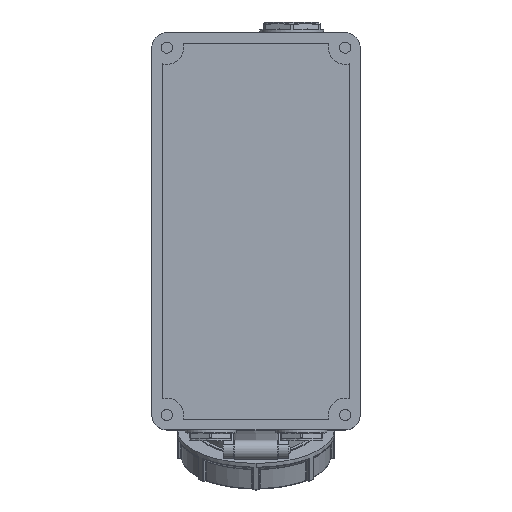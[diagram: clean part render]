
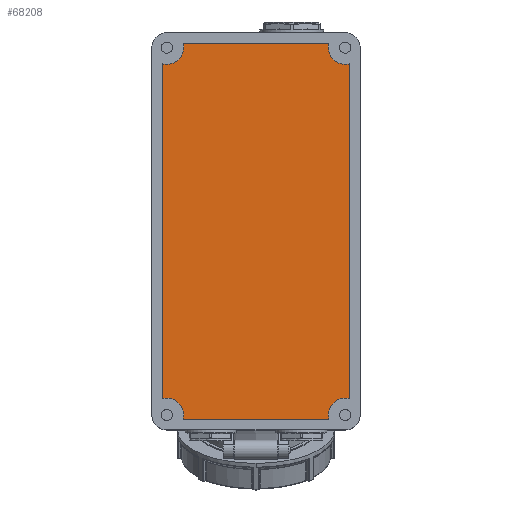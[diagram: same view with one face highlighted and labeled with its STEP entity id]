
A CAD part, top view. The second image highlights one B-rep face of the part: STEP entity #68208.
In plain terms, the highlighted planar face has unit normal (0, 0, 1).
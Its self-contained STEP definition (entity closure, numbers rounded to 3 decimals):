
#21667=CARTESIAN_POINT('',(50.5,104.,-1.));
#21668=DIRECTION('',(0.,0.,1.));
#21669=DIRECTION('',(-0.965,0.263,0.));
#21670=AXIS2_PLACEMENT_3D('',#21667,#21668,#21669);
#21675=DIRECTION('',(0.,-1.,0.));
#21676=VECTOR('',#21675,189.67);
#21677=CARTESIAN_POINT('',(53.,94.835,-1.));
#21678=LINE('1846',#21677,#21676);
#21682=CARTESIAN_POINT('',(50.5,-104.,-1.));
#21683=DIRECTION('',(0.,0.,1.));
#21684=DIRECTION('',(0.263,0.965,0.));
#21685=AXIS2_PLACEMENT_3D('',#21682,#21683,#21684);
#21690=DIRECTION('',(-1.,0.,0.));
#21691=VECTOR('',#21690,82.67);
#21692=CARTESIAN_POINT('',(41.335,-106.5,-1.));
#21693=LINE('1848',#21692,#21691);
#21697=CARTESIAN_POINT('',(-50.5,-104.,-1.));
#21698=DIRECTION('',(0.,0.,1.));
#21699=DIRECTION('',(0.965,-0.263,0.));
#21700=AXIS2_PLACEMENT_3D('',#21697,#21698,#21699);
#21705=DIRECTION('',(0.,1.,0.));
#21706=VECTOR('',#21705,189.67);
#21707=CARTESIAN_POINT('',(-53.,-94.835,-1.));
#21708=LINE('1850',#21707,#21706);
#21712=CARTESIAN_POINT('',(-50.5,104.,-1.));
#21713=DIRECTION('',(0.,0.,1.));
#21714=DIRECTION('',(-0.263,-0.965,0.));
#21715=AXIS2_PLACEMENT_3D('',#21712,#21713,#21714);
#21720=DIRECTION('',(1.,0.,0.));
#21721=VECTOR('',#21720,82.67);
#21722=CARTESIAN_POINT('',(-41.335,106.5,-1.));
#21723=LINE('1852',#21722,#21721);
#35536=CARTESIAN_POINT('',(41.335,106.5,-1.));
#35537=CARTESIAN_POINT('',(53.,94.835,-1.));
#35538=VERTEX_POINT('',#35536);
#35539=VERTEX_POINT('',#35537);
#35540=CARTESIAN_POINT('',(53.,-94.835,-1.));
#35541=VERTEX_POINT('',#35540);
#35542=CARTESIAN_POINT('',(41.335,-106.5,-1.));
#35543=VERTEX_POINT('',#35542);
#35544=CARTESIAN_POINT('',(-41.335,-106.5,-1.));
#35545=VERTEX_POINT('',#35544);
#35546=CARTESIAN_POINT('',(-53.,-94.835,-1.));
#35547=VERTEX_POINT('',#35546);
#35548=CARTESIAN_POINT('',(-53.,94.835,-1.));
#35549=VERTEX_POINT('',#35548);
#35550=CARTESIAN_POINT('',(-41.335,106.5,-1.));
#35551=VERTEX_POINT('',#35550);
#68193=CARTESIAN_POINT('',(0.,0.,-1.));
#68194=DIRECTION('',(0.,0.,-1.));
#68195=DIRECTION('',(-1.,0.,0.));
#68196=AXIS2_PLACEMENT_3D('',#68193,#68194,#68195);
#68197=PLANE('404',#68196);
#68198=ORIENTED_EDGE('1845',*,*,#67993,.T.);
#68199=ORIENTED_EDGE('1846',*,*,#68020,.T.);
#68200=ORIENTED_EDGE('1847',*,*,#68046,.T.);
#68201=ORIENTED_EDGE('1848',*,*,#68072,.T.);
#68202=ORIENTED_EDGE('1849',*,*,#68098,.T.);
#68203=ORIENTED_EDGE('1850',*,*,#68124,.T.);
#68204=ORIENTED_EDGE('1851',*,*,#68150,.T.);
#68205=ORIENTED_EDGE('1852',*,*,#68175,.T.);
#68206=EDGE_LOOP('404',(#68198,#68199,#68200,#68201,#68202,#68203,#68204,
#68205));
#68207=FACE_OUTER_BOUND('404',#68206,.F.);
#21671=CIRCLE('1845',#21670,9.5);
#21686=CIRCLE('1847',#21685,9.5);
#21701=CIRCLE('1849',#21700,9.5);
#21716=CIRCLE('1851',#21715,9.5);
#67993=EDGE_CURVE('1845',#35538,#35539,#21671,.T.);
#68020=EDGE_CURVE('1846',#35539,#35541,#21678,.T.);
#68046=EDGE_CURVE('1847',#35541,#35543,#21686,.T.);
#68072=EDGE_CURVE('1848',#35543,#35545,#21693,.T.);
#68098=EDGE_CURVE('1849',#35545,#35547,#21701,.T.);
#68124=EDGE_CURVE('1850',#35547,#35549,#21708,.T.);
#68150=EDGE_CURVE('1851',#35549,#35551,#21716,.T.);
#68175=EDGE_CURVE('1852',#35551,#35538,#21723,.T.);
#68208=ADVANCED_FACE('404',(#68207),#68197,.F.);
